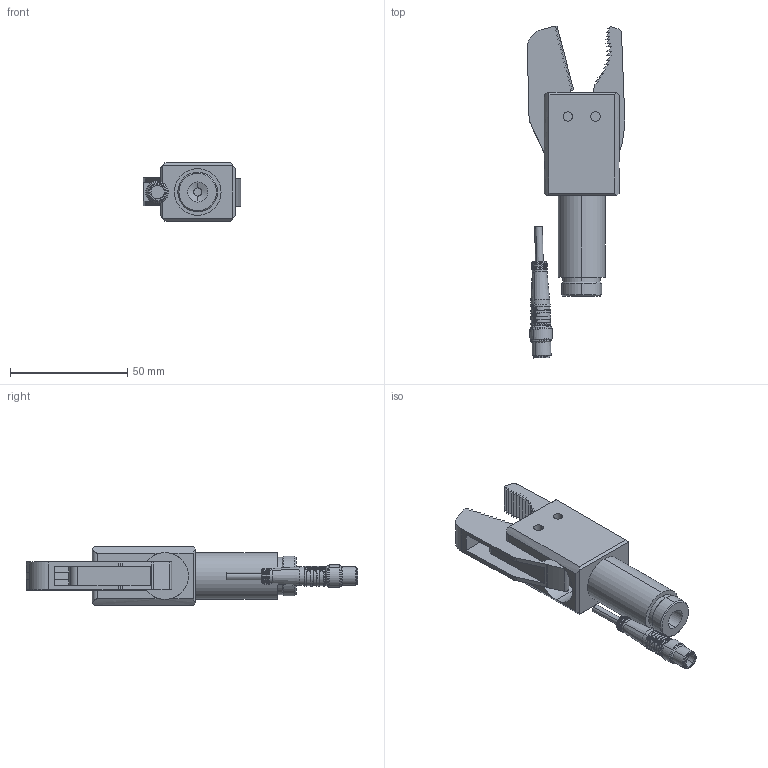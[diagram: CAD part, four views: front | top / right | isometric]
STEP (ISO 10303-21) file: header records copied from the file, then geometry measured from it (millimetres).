
FILE_DESCRIPTION (( 'STEP AP214' ), '1' );
FILE_NAME ('CA.GRZ.20.W.STEP', '2017-11-15T13:48:39', ( '' ), ( '' ), 'SwSTEP 2.0', 'SolidWorks 2017', '' );
FILE_SCHEMA (( 'AUTOMOTIVE_DESIGN' ));
Length unit declared in the file: millimetre
Products named in the file (6): GRZ.20.01; GRZ.20.S; GRZ.20.SC.PNP; GRZ.20.S1; GRZ.20.E; CA.GRZ.20.W
Assembly tree (5 placements, depth 2):
  CA.GRZ.20.W
    GRZ.20.E
    GRZ.20.S1
    GRZ.20.SC.PNP
    GRZ.20.S
    GRZ.20.01
Bounding box: 41.6 x 141.81 x 25 mm (x, y, z)
Volume: 48639.1 mm3; surface area: 22984.5 mm2
Topology: 5 solids, 5 shells, 733 faces, 2001 edges, 1305 vertices
Faces by surface type: plane 548, cylinder 120, bspline 38, cone 27
Entity records: 26440 total; most frequent: CARTESIAN_POINT 7297, ORIENTED_EDGE 3998, DIRECTION 3540, EDGE_CURVE 1999, LINE 1628, VECTOR 1628, VERTEX_POINT 1305, AXIS2_PLACEMENT_3D 956
